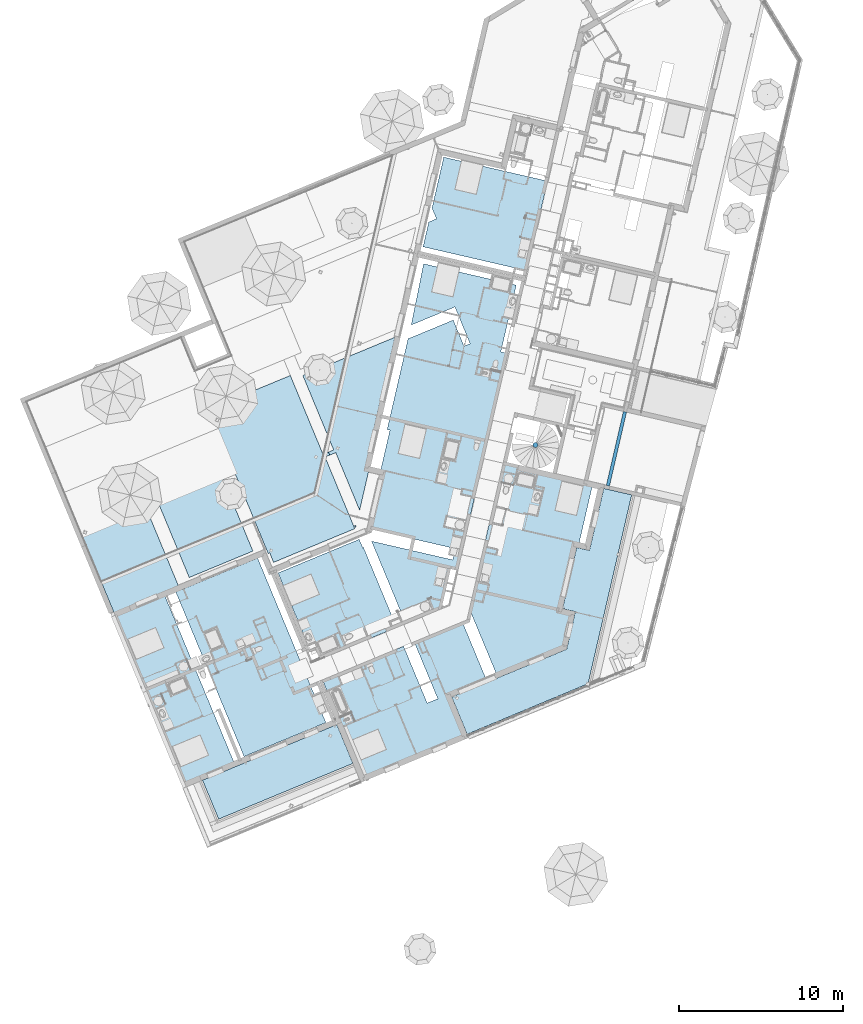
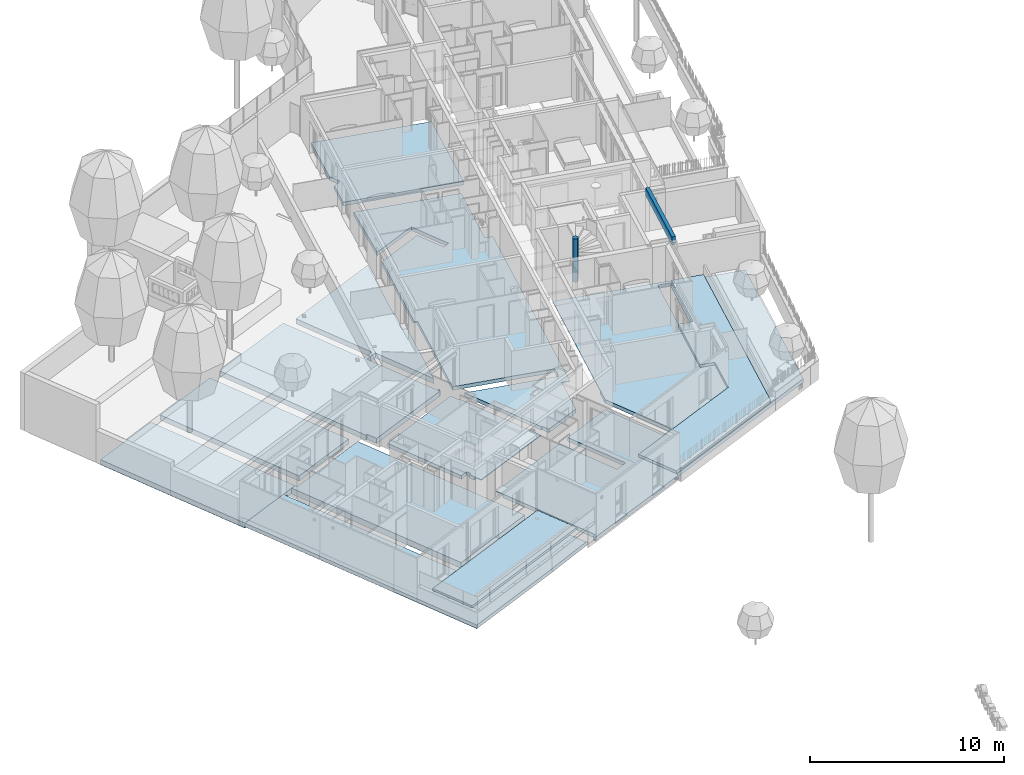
# One storey, part 3 of 119: 7 slabs, 1 beam, 1 member.
"""IFC2X3 building model written with IfcOpenShell, lengths in metres."""

from ifc_helpers import new_model, entity, si_unit, converted_unit, derived_unit, money_unit, direction, frame, origin_with_axes, place, context, subcontext, project, spatial, faceted_brep, material, material_list, type_object, element, save


model = new_model("IFC2X3")

# Units and contexts
model_context = context("Model", 3, precision=1e-05, world=origin_with_axes(), true_north=direction((0.0, 1.0)))
body_context = subcontext(model_context, "Body", "Model", "MODEL_VIEW")
ifc_project = project(units=[si_unit("LENGTHUNIT", "METRE"), si_unit("AREAUNIT", "SQUARE_METRE"), si_unit("VOLUMEUNIT", "CUBIC_METRE"), converted_unit("PLANEANGLEUNIT", "DEGREE", entity("IfcPlaneAngleMeasure", 0.0174532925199), si_unit("PLANEANGLEUNIT", "RADIAN"), dimensions=[0, 0, 0, 0, 0, 0, 0]), si_unit("SOLIDANGLEUNIT", "STERADIAN"), money_unit("EUR"), converted_unit("TIMEUNIT", "Year", entity("IfcTimeMeasure", 31556926.0), si_unit("TIMEUNIT", "SECOND"), dimensions=[0, 0, 1, 0, 0, 0, 0]), si_unit("MASSUNIT", "GRAM", prefix="KILO"), si_unit("THERMODYNAMICTEMPERATUREUNIT", "DEGREE_CELSIUS"), si_unit("LUMINOUSINTENSITYUNIT", "LUMEN"), si_unit("ENERGYUNIT", "JOULE", prefix="MEGA"), derived_unit("THERMALCONDUCTANCEUNIT", [(si_unit("POWERUNIT", "WATT"), 1), (si_unit("LENGTHUNIT", "METRE"), -1), (si_unit("THERMODYNAMICTEMPERATUREUNIT", "KELVIN"), -1)]), derived_unit("SPECIFICHEATCAPACITYUNIT", [(si_unit("ENERGYUNIT", "JOULE"), 1), (si_unit("MASSUNIT", "GRAM", prefix="KILO"), -1), (si_unit("THERMODYNAMICTEMPERATUREUNIT", "KELVIN"), -1)]), derived_unit("MASSDENSITYUNIT", [(si_unit("MASSUNIT", "GRAM", prefix="KILO"), 1), (si_unit("VOLUMEUNIT", "CUBIC_METRE"), -1)])], contexts=[model_context])

# Site, building, storey
site_placement = place(None, origin_with_axes())
site = spatial("IfcSite", under=ifc_project, at=site_placement, Name="Site", CompositionType="ELEMENT")
building_placement = place(site_placement, origin_with_axes())
building = spatial("IfcBuilding", under=site, at=building_placement, Name="Bâtiment", CompositionType="ELEMENT")
storey_placement = place(building_placement, origin_with_axes())
storey = spatial("IfcBuildingStorey", under=building, at=storey_placement, Name="Rez-de-chaussée", CompositionType="ELEMENT", Elevation=0.0)

# Beam
ifc_material_1 = material(Name="Béton")
beam_type = type_object("IfcBeamType", Name="Béton 200 x 500", PredefinedType="BEAM")
beam_placement = place(storey_placement, frame((-4.07620627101, -5.6662297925, 2.72000013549), z_axis=(0.0, 0.0, 1.0), x_axis=(-0.974387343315, 0.224876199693, 0.0)))
element("IfcBeam", 1, at=beam_placement, inside=storey, type_object=beam_type, material=ifc_material_1, Name="PoBA-001", ObjectType="BEAM", context=body_context, shape_type="Brep", body=[
    faceted_brep([(-0.1, 0.0, 0.0), (0.1, 0.0, 0.0), (0.100000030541, 4.61967338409, -1.35492542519e-07), (-0.1, 4.6196733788, -1.35492542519e-07), (0.1, 0.0, -0.500000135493), (-0.1, 0.0, -0.500000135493), (0.1, 4.61999999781, -0.500000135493), (0.1, 4.61999999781, -0.210000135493), (0.1, 4.6196733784, -0.210000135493), (-0.100000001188, 4.61967337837, -0.210000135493), (-0.100000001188, 4.61999999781, -0.210000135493), (-0.1, 4.61999999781, -0.500000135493)], [[[0, 1, 2, 3]], [[4, 1, 0, 5]], [[6, 7, 8, 2, 1, 4]], [[8, 9, 3, 2]], [[0, 3, 9, 10, 11, 5]], [[6, 4, 5, 11]], [[6, 11, 10, 7]], [[8, 7, 10, 9]]]),
])

# Member
member_type = type_object("IfcMemberType", Name="Béton D300", PredefinedType="USERDEFINED")
member_placement = place(storey_placement, frame((-9.52980076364, -7.68659305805, 0.0), z_axis=(0.0, 0.0, 1.0), x_axis=(0.0549398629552, 0.998489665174, 0.0)))
element("IfcMember", 2, at=member_placement, inside=storey, type_object=member_type, material=ifc_material_1, Name="Pot-001", ObjectType="STAIR_STRUCTURE", context=body_context, shape_type="Brep", body=[
    faceted_brep([(-0.15, 0.0, 2.72), (-0.15, 0.0, 0.0), (-0.146239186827, -0.0333781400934, 0.0), (-0.146239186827, -0.0333781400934, 2.72), (-0.146239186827, 0.0333781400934, 2.72), (-0.146239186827, 0.0333781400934, 0.0), (-0.135145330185, 0.0650825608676, 0.0), (-0.11727472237, 0.0935234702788, 0.0), (-0.0935234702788, 0.11727472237, 0.0), (-0.0650825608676, 0.135145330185, 0.0), (-0.0333781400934, 0.146239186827, 0.0), (0.0, 0.15, 0.0), (0.0333781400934, 0.146239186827, 0.0), (0.0650825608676, 0.135145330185, 0.0), (0.0935234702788, 0.11727472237, 0.0), (0.11727472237, 0.0935234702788, 0.0), (0.135145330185, 0.0650825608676, 0.0), (0.146239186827, 0.0333781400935, 0.0), (0.15, 0.0, 0.0), (0.146239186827, -0.0333781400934, 0.0), (0.135145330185, -0.0650825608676, 0.0), (0.11727472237, -0.0935234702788, 0.0), (0.0935234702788, -0.11727472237, 0.0), (0.0650825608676, -0.135145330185, 0.0), (0.0333781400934, -0.146239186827, 0.0), (0.0, -0.15, 0.0), (-0.0333781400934, -0.146239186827, 0.0), (-0.0650825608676, -0.135145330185, 0.0), (-0.0935234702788, -0.11727472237, 0.0), (-0.11727472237, -0.0935234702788, 0.0), (-0.135145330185, -0.0650825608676, 0.0), (-0.135145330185, -0.0650825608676, 2.72), (-0.11727472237, -0.0935234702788, 2.72), (-0.0935234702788, -0.11727472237, 2.72), (-0.0650825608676, -0.135145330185, 2.72), (-0.0333781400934, -0.146239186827, 2.72), (0.0, -0.15, 2.72), (0.0333781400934, -0.146239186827, 2.72), (0.0650825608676, -0.135145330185, 2.72), (0.0935234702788, -0.11727472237, 2.72), (0.11727472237, -0.0935234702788, 2.72), (0.135145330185, -0.0650825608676, 2.72), (0.146239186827, -0.0333781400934, 2.72), (0.15, 0.0, 2.72), (0.146239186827, 0.0333781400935, 2.72), (0.135145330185, 0.0650825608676, 2.72), (0.11727472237, 0.0935234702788, 2.72), (0.0935234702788, 0.11727472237, 2.72), (0.0650825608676, 0.135145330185, 2.72), (0.0333781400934, 0.146239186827, 2.72), (0.0, 0.15, 2.72), (-0.0333781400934, 0.146239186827, 2.72), (-0.0650825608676, 0.135145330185, 2.72), (-0.0935234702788, 0.11727472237, 2.72), (-0.11727472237, 0.0935234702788, 2.72), (-0.135145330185, 0.0650825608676, 2.72)], [[[0, 1, 2, 3]], [[4, 5, 1, 0]], [[2, 1, 5, 6, 7, 8, 9, 10, 11, 12, 13, 14, 15, 16, 17, 18, 19, 20, 21, 22, 23, 24, 25, 26, 27, 28, 29, 30]], [[3, 2, 30, 31]], [[4, 0, 3, 31, 32, 33, 34, 35, 36, 37, 38, 39, 40, 41, 42, 43, 44, 45, 46, 47, 48, 49, 50, 51, 52, 53, 54, 55]], [[55, 6, 5, 4]], [[54, 7, 6, 55]], [[53, 8, 7, 54]], [[52, 9, 8, 53]], [[51, 10, 9, 52]], [[50, 11, 10, 51]], [[49, 12, 11, 50]], [[48, 13, 12, 49]], [[47, 14, 13, 48]], [[46, 15, 14, 47]], [[45, 16, 15, 46]], [[44, 17, 16, 45]], [[43, 18, 17, 44]], [[42, 19, 18, 43]], [[41, 20, 19, 42]], [[40, 21, 20, 41]], [[39, 22, 21, 40]], [[38, 23, 22, 39]], [[37, 24, 23, 38]], [[36, 25, 24, 37]], [[35, 26, 25, 36]], [[34, 27, 26, 35]], [[33, 28, 27, 34]], [[32, 29, 28, 33]], [[31, 30, 29, 32]]]),
])

# Slabs
slab_type_1 = type_object("IfcSlabType", Name="Béton 320", PredefinedType="FLOOR")
slab_1_placement = place(storey_placement, frame((-38.7204314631, -9.37323483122, 0.0), z_axis=(0.0, 0.0, 1.0), x_axis=(1.0, 0.0, 0.0)))
element("IfcSlab", 3, at=slab_1_placement, inside=storey, type_object=slab_type_1, material=ifc_material_1, Name="Dalle alvéolaire préfabriquée", PredefinedType="FLOOR", context=body_context, shape_type="Brep", body=[
    faceted_brep([(3.58543523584, -8.64464652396, -0.32), (7.51116731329, -7.01641822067, -0.32), (7.51116731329, -7.01641822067, 0.0), (3.58543523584, -8.64464652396, 0.0), (0.0, 0.0, -0.32), (3.92573207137, 1.62822830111, -0.32), (3.92573207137, 1.62822830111, 0.0), (0.0, 0.0, 0.0)], [[[0, 1, 2, 3]], [[4, 5, 1, 0]], [[5, 6, 2, 1]], [[3, 2, 6, 7]], [[3, 7, 4, 0]], [[7, 6, 5, 4]]]),
    faceted_brep([(18.2725506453, -3.23193692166, 0.0), (18.2382623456, -3.38050793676, 0.0), (18.2382623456, -3.38050793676, -0.32), (18.2725506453, -3.23193692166, -0.32), (18.1664890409, -3.20745925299, -4.47035253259e-09), (18.1664890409, -3.20745925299, -0.32)], [[[0, 1, 2, 3]], [[0, 4, 1]], [[5, 2, 1, 4]], [[2, 5, 3]], [[5, 4, 0, 3]]]),
    faceted_brep([(14.2710737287, 5.91904024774, 0.0), (9.2832017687, 3.85028106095, 0.0), (12.924806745, -4.92979323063, 0.0), (13.0171769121, -4.89148197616, 0.0), (13.2532452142, -5.46065332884, 0.0), (18.1965256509, -3.4103888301, 0.0), (16.3871619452, 0.952068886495, 0.0), (16.667557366, 1.06836509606, 0.0), (16.5909348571, 1.25310543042, 0.0), (16.2627607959, 1.11699265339, 0.0), (14.2710737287, 5.91904024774, -0.32), (9.2832017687, 3.85028106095, -0.32), (12.924806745, -4.92979323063, -0.32), (13.0171769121, -4.89148197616, -0.32), (13.2532452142, -5.46065332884, -0.32), (18.1965256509, -3.4103888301, -0.32), (16.3871619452, 0.952068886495, -0.32), (16.667557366, 1.06836509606, -0.32), (16.5909348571, 1.25310543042, -0.32), (16.2627607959, 1.11699265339, -0.32)], [[[0, 1, 2, 3, 4, 5, 6, 7, 8, 9]], [[10, 11, 1, 0]], [[11, 12, 2, 1]], [[3, 2, 12, 13]], [[13, 14, 4, 3]], [[5, 4, 14, 15]], [[6, 5, 15, 16]], [[16, 17, 7, 6]], [[17, 18, 8, 7]], [[19, 9, 8, 18]], [[10, 0, 9, 19]], [[13, 12, 11, 10, 19, 18, 17, 16, 15, 14]]]),
    faceted_brep([(8.54424043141, 3.54379102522, 0.0), (4.66469340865, 1.93471833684, 0.0), (8.11474211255, -6.38350511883, 0.0), (11.9942891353, -4.77443243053, 0.0), (8.54424043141, 3.54379102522, -0.32), (4.66469340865, 1.93471833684, -0.32), (8.11474211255, -6.38350511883, -0.32), (11.9942891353, -4.77443243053, -0.32)], [[[0, 1, 2, 3]], [[4, 5, 1, 0]], [[5, 6, 2, 1]], [[3, 2, 6, 7]], [[4, 0, 3, 7]], [[7, 6, 5, 4]]]),
])
slab_2_placement = place(storey_placement, frame((-20.1532499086, -12.8849495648, 0.0), z_axis=(0.0, 0.0, 1.0), x_axis=(1.0, 0.0, 0.0)))
element("IfcSlab", 4, at=slab_2_placement, inside=storey, type_object=slab_type_1, material=ifc_material_1, Name="Pré-dalle préfabriquée pour dalle béton", PredefinedType="FLOOR", context=body_context, shape_type="Brep", body=[
    faceted_brep([(-3.53854740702, 9.43138188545, 0.0), (-1.65782958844, 4.89688616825, 0.0), (-1.97624669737, 4.76482016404, 0.0), (-1.89962418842, 4.58007982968, 0.0), (-1.53342843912, 4.73196240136, 0.0), (-0.0773445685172, 1.22127833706, 0.0), (0.986213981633, 5.82967171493, 0.0), (0.717214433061, 5.89175338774, 0.0), (2.07107325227, 11.7580162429, 0.0), (-1.65782958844, 4.89688616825, -0.32), (-3.53854740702, 9.43138188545, -0.32), (-1.97624669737, 4.76482016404, -0.32), (-1.89962418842, 4.58007982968, -0.32), (-1.53342843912, 4.73196240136, -0.32), (-0.0773445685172, 1.22127833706, -0.32), (0.986213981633, 5.82967171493, -0.32), (0.717214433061, 5.89175338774, -0.32), (2.07107325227, 11.7580162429, -0.32)], [[[0, 1, 2, 3, 4, 5, 6, 7, 8]], [[9, 1, 0, 10]], [[11, 2, 1, 9]], [[3, 2, 11, 12]], [[13, 4, 3, 12]], [[13, 14, 5, 4]], [[6, 5, 14, 15]], [[7, 6, 15, 16]], [[16, 17, 8, 7]], [[17, 10, 0, 8]], [[11, 9, 10, 17, 16, 15, 14, 13, 12]]]),
])
slab_type_2 = type_object("IfcSlabType", Name="Béton 380", PredefinedType="FLOOR")
slab_3_placement = place(storey_placement, frame((-31.8022546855, -16.6356005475, 0.0), z_axis=(0.0, 0.0, 1.0), x_axis=(1.0, 0.0, 0.0)))
element("IfcSlab", 5, at=slab_3_placement, inside=storey, type_object=slab_type_2, material=ifc_material_1, Name="Pré-dalle préfabriquée pour dalle béton", PredefinedType="FLOOR", context=body_context, shape_type="Brep", body=[
    faceted_brep([(5.36003879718, 2.06439370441, 0.0), (5.36003879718, 2.06439370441, -0.38), (0.649160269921, 0.110519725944, -0.38), (0.649160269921, 0.110519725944, 0.0), (9.51618291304, -7.95625772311, -0.38), (9.51618291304, -7.95625772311, 0.0), (0.59299053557, 0.245947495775, -0.38), (4.5356094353, -10.0219898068, -0.38), (0.323295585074, 0.1340893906, -0.38), (0.59299053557, 0.245947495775, 0.0), (0.323295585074, 0.1340893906, 0.0), (4.5356094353, -10.0219898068, 0.0)], [[[0, 1, 2, 3]], [[4, 1, 0, 5]], [[6, 2, 1, 4, 7, 8]], [[6, 9, 3, 2]], [[0, 3, 9, 10, 11, 5]], [[5, 11, 7, 4]], [[8, 7, 11, 10]], [[10, 9, 6, 8]]]),
])
slab_type_3 = type_object("IfcSlabType", Name="Béton 230", PredefinedType="FLOOR")
slab_4_placement = place(storey_placement, frame((-35.1349962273, -18.0178813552, 0.0), z_axis=(0.0, 0.0, 1.0), x_axis=(1.0, 0.0, 0.0)))
element("IfcSlab", 6, at=slab_4_placement, inside=storey, type_object=slab_type_3, material=ifc_material_1, Name="Pré-dalle préfabriquée pour dalle béton", PredefinedType="FLOOR", context=body_context, shape_type="Brep", body=[
    faceted_brep([(17.5809553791, -1.9262210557, 0.0), (12.6376749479, -3.9764855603, 0.0), (15.1090593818, -9.93510520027, 0.0), (14.913249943, -10.0163187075, 0.0), (14.9623249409, -10.1346407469, 0.0), (21.4949231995, -7.42519415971, 0.0), (21.4433433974, -7.30083292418, 0.0), (21.7789833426, -7.1612823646, 0.0), (31.3682981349, -3.14933977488, 0.0), (33.6651681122, 6.80343462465, 0.0), (29.7578765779, 7.705195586, 0.0), (29.8029485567, 7.90004288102, 0.0), (28.7926611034, 8.13374986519, 0.0), (28.7910112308, 8.13347760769, 0.0), (23.6664763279, 9.31953636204, 0.0), (21.5942661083, 0.334262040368, 0.0), (23.2406398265, -3.63521945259, 0.0), (22.5940486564, -3.90339823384, 0.0), (21.1585639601, -0.442379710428, 0.0), (18.2275465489, -1.65804227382, 0.0), (19.663031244, -5.11906079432, 0.0), (19.0164400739, -5.38723957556, 0.0), (29.7570090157, 7.70538795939, 0.0), (28.7794038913, 3.46943031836, 0.0), (28.0973327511, 3.62684365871, 0.0), (29.0749378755, 7.86280129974, 0.0), (17.5809553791, -1.9262210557, -0.05), (12.6376749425, -3.9764855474, -0.05), (12.8058473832, -4.38195690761, -0.23), (15.1090593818, -9.93510520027, -0.23), (12.8058473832, -4.38195690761, -0.05), (14.913249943, -10.0163187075, -0.23), (14.9623249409, -10.1346407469, -0.23), (21.4949231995, -7.42519415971, -0.23), (21.4135847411, -7.45892992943, -0.1), (21.154948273, -7.56620144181, -0.1), (21.154948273, -7.56620144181, -0.06), (21.2611739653, -7.52214349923, -0.0400000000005), (21.3073590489, -7.50298787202, -0.0400000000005), (21.4135847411, -7.45892992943, -0.06), (21.4433433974, -7.30083292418, -0.23), (21.7789833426, -7.1612823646, -0.23), (31.3682981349, -3.14933977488, -0.23), (33.6651681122, 6.80343462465, -0.23), (29.7578765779, 7.705195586, -0.23), (29.8029485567, 7.90004288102, -0.23), (28.7926611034, 8.13374986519, -0.23), (28.7910112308, 8.13347760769, -0.23), (24.1070307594, 9.21757131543, -0.23), (24.1070307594, 9.21757131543, -0.0500000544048), (23.6664763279, 9.31953636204, -0.0500000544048), (21.8020730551, 1.23533009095, -0.0500000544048), (21.8020730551, 1.23533009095, -0.23), (21.5942661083, 0.334262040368, -0.23), (23.2406398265, -3.63521945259, -0.23), (22.5940486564, -3.90339823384, -0.23), (21.1585639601, -0.442379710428, -0.23), (18.2275465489, -1.65804227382, -0.23), (19.663031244, -5.11906079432, -0.23), (19.0164400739, -5.38723957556, -0.23), (17.7491278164, -2.33169240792, -0.23), (17.7491278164, -2.33169240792, -0.05), (29.7570090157, 7.70538795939, -0.23), (28.7794038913, 3.46943031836, -0.23), (28.0973327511, 3.62684365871, -0.23), (29.0749378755, 7.86280129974, -0.23), (22.2414297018, 1.13393216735, -0.23), (21.3628478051, -7.33660088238, -0.1), (21.1042113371, -7.44387239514, -0.1), (21.1042113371, -7.44387239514, -0.06), (21.2104370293, -7.3998144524, -0.0400000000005), (21.2566221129, -7.38065882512, -0.0400000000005), (21.3628478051, -7.33660088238, -0.06), (22.2414297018, 1.13393216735, -0.0500000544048)], [[[0, 1, 2, 3, 4, 5, 6, 7, 8, 9, 10, 11, 12, 13, 14, 15, 16, 17, 18, 19, 20, 21], [22, 23, 24, 25]], [[0, 26, 27, 1]], [[28, 29, 2, 1, 27, 30]], [[29, 31, 3, 2]], [[32, 4, 3, 31]], [[32, 33, 5, 4], [34, 35, 36, 37, 38, 39]], [[33, 40, 6, 5]], [[40, 41, 7, 6]], [[41, 42, 8, 7]], [[42, 43, 9, 8]], [[43, 44, 10, 9]], [[44, 45, 11, 10]], [[45, 46, 12, 11]], [[46, 47, 13, 12]], [[47, 48, 49, 50, 14, 13]], [[51, 52, 53, 15, 14, 50]], [[53, 54, 16, 15]], [[54, 55, 17, 16]], [[55, 56, 18, 17]], [[18, 56, 57, 19]], [[57, 58, 20, 19]], [[58, 59, 21, 20]], [[59, 60, 61, 26, 0, 21]], [[62, 63, 23, 22]], [[63, 64, 24, 23]], [[64, 65, 25, 24]], [[65, 62, 22, 25]], [[26, 61, 30, 27]], [[32, 31, 29, 28, 60, 59, 58, 57, 56, 55, 54, 53, 52, 66, 48, 47, 46, 45, 44, 43, 42, 41, 40, 33], [62, 65, 64, 63]], [[61, 60, 28, 30]], [[34, 67, 68, 35]], [[35, 68, 69, 36]], [[36, 69, 70, 37]], [[37, 70, 71, 38]], [[38, 71, 72, 39]], [[39, 72, 67, 34]], [[66, 73, 49, 48]], [[73, 51, 50, 49]], [[51, 73, 66, 52]], [[69, 68, 67, 72, 71, 70]]]),
    faceted_brep([(8.05990724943, -9.10155983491, -0.23), (8.05786986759, -9.09664761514, -0.23), (8.05786986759, -9.09664761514, 0.0), (8.05990724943, -9.10155983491, 0.0), (3.00944595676, 1.24819141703, -0.23), (7.41127869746, -9.36482639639, -0.23), (13.0404807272, -7.03582775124, -0.23), (14.3700980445, -10.241595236, -0.23), (14.4815882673, -10.1953537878, -0.23), (11.3850906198, -11.5606675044, -0.23), (5.76198558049, -13.8928946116, -0.23), (0.0, 0.0, -0.23), (7.41127869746, -9.36482639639, 0.0), (3.00944595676, 1.24819141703, 0.0), (0.0, 0.0, 0.0), (5.76198558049, -13.8928946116, 0.0), (11.3850906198, -11.5606675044, 0.0), (14.4815882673, -10.1953537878, 0.0), (14.3700980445, -10.241595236, 0.0), (13.0404807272, -7.03582775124, 0.0)], [[[0, 1, 2, 3]], [[4, 5, 1, 0, 6, 7, 8, 9, 10, 11]], [[5, 12, 2, 1]], [[2, 12, 13, 14, 15, 16, 17, 18, 19, 3]], [[0, 3, 19, 6]], [[4, 13, 12, 5]], [[7, 6, 19, 18]], [[7, 18, 17, 8]], [[9, 8, 17, 16]], [[9, 16, 15, 10]], [[10, 15, 14, 11]], [[14, 13, 4, 11]]]),
])
slab_5_placement = place(storey_placement, frame((-25.7025617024, -15.3104669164, 0.0), z_axis=(0.0, 0.0, 1.0), x_axis=(1.0, 0.0, 0.0)))
element("IfcSlab", 7, at=slab_5_placement, inside=storey, type_object=slab_type_3, material=ifc_material_1, Name="Pré-dalle préfabriquée pour dalle béton", PredefinedType="FLOOR", context=body_context, shape_type="Brep", body=[
    faceted_brep([(5.44683467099, 1.88025208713, -5.22747067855e-10), (0.503554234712, -0.170012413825, 0.0), (2.33978918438, -4.59725792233, 0.0), (2.75488518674, -4.42509358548, 0.0), (2.85961460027, -4.67760093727, 0.0), (2.75246520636, -4.72204199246, 0.0), (3.04195860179, -5.42002366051, 0.0), (7.72589931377, -3.48416589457, 0.0), (5.68195924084, 1.4438660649, 0.0), (5.66260734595, 1.36001441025, -4.47035253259e-09), (5.44683467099, 1.88025208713, -0.23), (0.503554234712, -0.170012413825, -0.23), (2.33978918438, -4.59725792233, -0.23), (2.75488518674, -4.42509358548, -0.23), (2.85961460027, -4.67760093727, -0.23), (2.75246520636, -4.72204199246, -0.23), (2.87391185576, -5.0148553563, -0.23), (2.87391185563, -5.01485535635, -0.05), (3.04195860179, -5.42002366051, -0.05), (7.72589931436, -3.48416589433, -0.05), (7.55543076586, -3.07315851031, -0.05), (7.55543076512, -3.07315851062, -0.23), (5.68195924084, 1.4438660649, -0.23), (5.66260734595, 1.36001441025, -0.23)], [[[0, 1, 2, 3, 4, 5, 6, 7, 8, 9]], [[10, 11, 1, 0]], [[11, 12, 2, 1]], [[3, 2, 12, 13]], [[14, 4, 3, 13]], [[15, 5, 4, 14]], [[16, 17, 18, 6, 5, 15]], [[6, 18, 19, 7]], [[19, 20, 21, 22, 8, 7]], [[23, 9, 8, 22]], [[23, 10, 0, 9]], [[13, 12, 11, 10, 23, 22, 21, 16, 15, 14]], [[16, 21, 20, 17]], [[17, 20, 19, 18]]]),
    faceted_brep([(10.5944650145, 25.1491364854, 0.0), (9.87679221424, 22.0394641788, 0.0), (9.88037892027, 22.0409517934, 0.0), (10.1485577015, 21.3943606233, 0.0), (9.68338367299, 21.2014260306, 0.0), (9.3345657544, 19.6899999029, 0.0), (15.6548662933, 18.2313549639, 0.0), (16.9147655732, 23.6904915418, 0.0), (10.5944650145, 25.1491364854, -0.23), (9.87679221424, 22.0394641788, -0.23), (9.88037892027, 22.0409517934, -0.23), (10.1485577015, 21.3943606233, -0.23), (9.68338367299, 21.2014260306, -0.23), (9.3345657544, 19.6899999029, -0.23), (15.6548662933, 18.2313549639, -0.23), (16.5220467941, 21.9888432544, -0.23), (16.5220466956, 21.9888432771, -0.06), (16.9147655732, 23.6904915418, -0.06), (16.7382568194, 23.7312275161, -0.06), (16.7382568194, 23.7312275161, -0.23), (16.3466305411, 22.0292056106, -0.23), (16.3466305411, 22.0292056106, -0.06)], [[[0, 1, 2, 3, 4, 5, 6, 7]], [[8, 9, 1, 0]], [[10, 2, 1, 9]], [[11, 3, 2, 10]], [[12, 4, 3, 11]], [[5, 4, 12, 13]], [[13, 14, 6, 5]], [[14, 15, 16, 17, 7, 6]], [[17, 18, 19, 8, 0, 7]], [[11, 10, 9, 8, 19, 20, 15, 14, 13, 12]], [[21, 16, 15, 20]], [[21, 18, 17, 16]], [[20, 19, 18, 21]]]),
    faceted_brep([(8.12880739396, -2.88947606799, 0.0), (8.12880739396, -2.88947606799, -0.05), (8.15583685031, -2.82413535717, -0.05), (8.15583685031, -2.82413535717, 0.0), (8.10965176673, -2.84329098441, -0.23), (8.10965176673, -2.84329098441, -0.05), (6.19644004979, 1.7695489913, 0.0), (6.19644004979, 1.7695489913, -0.23), (8.15583685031, -2.82413535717, -0.23), (8.32661599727, -3.2358916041, -0.23), (8.32661599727, -3.2358916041, 0.0), (11.2964498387, 1.31093176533, 0.0), (11.1390364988, 0.628860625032, 0.0), (10.4516242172, -2.35763248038, 0.0), (11.0134633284, 0.0768133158, 0.0), (11.4421436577, -0.0223488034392, 0.0), (14.4923570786, 13.1942089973, 0.0), (14.0685582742, 13.2920163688, 0.0), (15.0061912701, 17.3547749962, 0.0), (9.3661137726, 18.6564331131, 0.0), (8.62331372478, 14.9717050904, 0.0), (8.61254831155, 14.9250586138, 0.0), (11.2736374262, 16.0287662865, 0.0), (11.5418162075, 15.3821751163, 0.0), (11.5393300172, 15.3811439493, 0.0), (12.1975591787, 13.7941236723, 0.0), (11.82807851, 13.6408786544, 0.0), (11.1698493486, 15.2278989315, 0.0), (8.41913977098, 14.0870204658, 0.0), (7.14496834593, 8.56604265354, 0.0), (7.31652916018, 8.52644860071, 0.0), (5.93675202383, 2.54788181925, 0.0), (11.1390364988, 0.628860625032, -0.23), (11.2964498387, 1.31093176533, -0.23), (5.93675202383, 2.54788181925, -0.23), (7.36825068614, 8.75055768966, -0.23), (7.19668987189, 8.79015174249, -0.23), (8.41913977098, 14.0870204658, -0.23), (11.1698493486, 15.2278989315, -0.23), (11.82807851, 13.6408786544, -0.23), (12.1975591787, 13.7941236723, -0.23), (11.5393300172, 15.3811439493, -0.23), (11.5418162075, 15.3821751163, -0.23), (11.2736374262, 16.0287662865, -0.23), (11.271151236, 16.0277351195, -0.23), (10.9016705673, 15.8744901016, -0.23), (8.61254831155, 14.9250586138, -0.23), (8.62331372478, 14.9717050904, -0.23), (9.3661137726, 18.6564331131, -0.23), (15.0061912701, 17.3547749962, -0.23), (14.0685582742, 13.2920163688, -0.23), (14.4923570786, 13.1942089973, -0.23), (12.6644675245, 5.27397371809, -0.23), (12.2342494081, 5.37326258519, -0.23), (10.4994227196, -2.143731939, -0.23), (10.5009104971, -2.14407529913, -0.23), (10.4516242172, -2.35763248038, -0.23), (10.5009104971, -2.14407529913, -0.05), (11.0134633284, 0.0768133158, -0.05), (11.4421436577, -0.0223488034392, -0.05), (12.6644675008, 5.27397372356, -0.05), (12.2342494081, 5.37326258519, -0.05), (10.4994227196, -2.143731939, -0.05)], [[[0, 1, 2, 3]], [[4, 5, 1, 0, 6, 7]], [[5, 2, 1]], [[3, 2, 8, 9, 10]], [[11, 12, 6, 0, 3, 10, 13, 14, 15, 16, 17, 18, 19, 20, 21, 22, 23, 24, 25, 26, 27, 28, 29, 30, 31]], [[4, 8, 2, 5]], [[7, 6, 12, 32]], [[9, 8, 4, 7, 32, 33, 34, 35, 36, 37, 38, 39, 40, 41, 42, 43, 44, 45, 46, 47, 48, 49, 50, 51, 52, 53, 54, 55, 56]], [[13, 10, 9, 56]], [[32, 12, 11, 33]], [[55, 57, 58, 14, 13, 56]], [[14, 58, 59, 15]], [[52, 51, 16, 15, 59, 60]], [[50, 17, 16, 51]], [[50, 49, 18, 17]], [[49, 48, 19, 18]], [[48, 47, 20, 19]], [[46, 21, 20, 47]], [[22, 21, 46, 45, 44, 43]], [[42, 23, 22, 43]], [[41, 24, 23, 42]], [[25, 24, 41, 40]], [[39, 26, 25, 40]], [[39, 38, 27, 26]], [[38, 37, 28, 27]], [[37, 36, 29, 28]], [[29, 36, 35, 30]], [[35, 34, 31, 30]], [[33, 11, 31, 34]], [[53, 52, 60, 61]], [[62, 54, 53, 61]], [[62, 57, 55, 54]], [[61, 60, 59, 58, 57, 62]]]),
])
ifc_material_2 = material(Name="Finition sol - Dalles terrasse")
ifc_material_3 = material(Name="Divers - Vide")
ifc_material_list = material_list([ifc_material_2, ifc_material_3])
slab_type_4 = type_object("IfcSlabType", Name="6 -Dalles sur plots multi protections RDC 170", PredefinedType="FLOOR")
slab_6_placement = place(storey_placement, frame((-29.7956615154, -28.09864817, 0.14), z_axis=(0.0, 0.0, 1.0), x_axis=(1.0, 0.0, 0.0)))
element("IfcSlab", 8, at=slab_6_placement, inside=storey, type_object=slab_type_4, material=ifc_material_list, Name="Dalle_006", PredefinedType="FLOOR", context=body_context, shape_type="Brep", body=[
    faceted_brep([(8.16822665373, 3.38783634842, 0.0), (9.15021753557, 1.02021192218, 0.0), (9.15964407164, 1.02412165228, 0.0), (8.17765319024, 3.39174607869, 0.0), (9.15021753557, 1.02021192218, -0.00636674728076), (8.16822665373, 3.38783634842, -0.00636674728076), (9.14907761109, 1.01973912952, -0.00636674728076), (9.14907761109, 1.01973912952, 0.0), (0.981990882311, -2.36762442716, 0.0), (0.981990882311, -2.36762442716, -0.05), (9.15964407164, 1.02412165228, -0.05), (8.17765319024, 3.39174607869, -0.05), (0.0, 0.0, -0.05), (0.0, 0.0, 0.0), (8.16708672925, 3.38736355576, 0.0), (8.16708672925, 3.38736355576, -0.00636674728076)], [[[0, 1, 2, 3]], [[4, 1, 0, 5]], [[6, 7, 8, 9, 10, 2, 1, 4]], [[10, 11, 3, 2]], [[5, 0, 3, 11, 12, 13, 14, 15]], [[6, 4, 5, 15]], [[14, 7, 6, 15]], [[7, 14, 13, 8]], [[12, 9, 8, 13]], [[9, 12, 11, 10]]]),
    faceted_brep([(2.71853515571, 0.98411919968, -0.17), (2.71853515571, 0.98411919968, -0.14), (2.72057253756, 0.979206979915, -0.14), (2.72057253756, 0.979206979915, -0.17), (2.07194398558, 0.715940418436, -0.17), (2.07194398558, 0.715940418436, -0.14), (2.02119215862, 0.838305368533, -0.14), (8.17765319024, 3.39174607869, -0.14), (9.15964407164, 1.02412165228, -0.14), (8.63034768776, 0.804591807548, -0.14), (7.70114601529, 3.04493906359, -0.14), (7.70114601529, 3.04493906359, -0.17), (8.63034768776, 0.804591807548, -0.17), (0.981990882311, -2.36762442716, -0.17), (0.0, 0.0, -0.17), (2.02119215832, 0.838305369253, -0.17), (0.0, 0.0, -0.05), (8.17765319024, 3.39174607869, -0.05), (9.15964407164, 1.02412165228, -0.05), (0.981990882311, -2.36762442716, -0.05)], [[[0, 1, 2, 3]], [[1, 0, 4, 5]], [[1, 5, 6, 7, 8, 9, 10, 2]], [[10, 11, 3, 2]], [[4, 0, 3, 11, 12, 13, 14, 15]], [[4, 15, 6, 5]], [[6, 15, 14, 16, 17, 7]], [[8, 7, 17, 18]], [[12, 9, 8, 18, 19, 13]], [[11, 10, 9, 12]], [[19, 16, 14, 13]], [[18, 17, 16, 19]]]),
])
slab_7_placement = place(storey_placement, frame((-7.62546564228, -20.1220576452, 0.18), z_axis=(0.0, 0.0, 1.0), x_axis=(1.0, 0.0, 0.0)))
element("IfcSlab", 9, at=slab_7_placement, inside=storey, type_object=slab_type_4, material=ifc_material_list, Name="Dalle_006", PredefinedType="FLOOR", context=body_context, shape_type="Brep", body=[
    faceted_brep([(1.30268335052, -2.1026288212, 0.0), (1.29788886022, -2.09106908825, 0.0), (1.30937630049, -2.08630458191, 0.0), (3.96002471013, 9.39894049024, 0.0), (2.25971794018, 9.7913452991, 0.0), (1.38787272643, 6.01364560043, 0.0), (0.608362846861, 6.19354651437, 0.0), (-0.251790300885, 2.46650752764, 0.0), (0.527719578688, 2.28660639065, 0.0), (0.0, 0.0, 0.0), (-7.00096736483, -2.90370638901, 0.0), (-6.05763137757, -5.1781319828, 0.0), (1.30268335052, -2.1026288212, -0.05), (1.29788886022, -2.09106908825, -0.05), (1.30937630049, -2.08630458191, -0.05), (3.96002471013, 9.39894049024, -0.05), (2.26966163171, 9.78905044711, -0.046366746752), (2.27086410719, 9.78877293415, -0.046366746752), (2.27086410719, 9.78877293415, -0.0170688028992), (2.25971794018, 9.7913452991, -0.0136751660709), (2.25971794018, 9.7913452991, -0.05), (2.25971794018, 9.7913452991, -0.0150858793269), (2.26966163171, 9.78905044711, -0.0181473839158), (1.38787273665, 6.01364560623, -0.0136751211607), (0.608362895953, 6.19354654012, -0.0136751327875), (-0.25179024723, 2.46650743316, -0.0136751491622), (0.527719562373, 2.28660641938, -0.0136751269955), (-4.04187510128e-08, -5.11485218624e-08, -0.0136751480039), (-7.00096736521, -2.90370639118, -0.0136751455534), (-6.05763137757, -5.1781319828, -0.0136751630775), (-6.04707651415, -5.17372163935, -0.0170688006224), (-6.04707651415, -5.17372163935, -0.0463667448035), (-6.04821519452, -5.17419743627, -0.0463667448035), (-6.04821519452, -5.17419743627, -0.0181473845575), (-6.05763137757, -5.1781319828, -0.0150858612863), (-6.05763137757, -5.1781319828, -0.05), (-7.00096736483, -2.90370638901, -0.05), (0.0, 0.0, -0.05), (0.527719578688, 2.28660639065, -0.05), (-0.251790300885, 2.46650752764, -0.05), (0.608362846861, 6.19354651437, -0.05), (1.38787272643, 6.01364560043, -0.05), (0.539958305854, 2.29425535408, -0.0463667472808), (0.00876232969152, -0.00741390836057, -0.0463667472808), (-6.98649117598, -2.90875040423, -0.0463667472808), (-6.98763110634, -2.90922318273, -0.0463667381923), (-6.98601838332, -2.90989032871, -0.0463667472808), (0.00982196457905, -0.00831043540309, -0.0463667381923), (0.0101629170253, -0.0068330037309, -0.0463667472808), (0.541160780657, 2.2939778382, -0.0463667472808), (0.541438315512, 2.29518030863, -0.0463667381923), (-0.23807157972, 2.47508127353, -0.0463667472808), (0.616936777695, 6.17982780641, -0.0463667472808), (1.39524417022, 6.00020436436, -0.0463667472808), (1.39644664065, 5.9999268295, -0.0463667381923), (1.3955216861, 6.00140683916, -0.0463667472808), (0.616011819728, 6.18130779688, -0.0463667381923), (0.615734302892, 6.1801053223, -0.0463667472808), (-0.239551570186, 2.47415631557, -0.0463667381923), (-0.238349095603, 2.47387879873, -0.0463667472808), (1.39644664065, 5.9999268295, -0.0170688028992), (1.38787274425, 6.01364561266, -0.0150858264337), (1.3955216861, 6.00140683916, -0.0181473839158), (0.616936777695, 6.17982780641, -0.0170687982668), (1.39174096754, 6.00101285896, -0.0170688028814), (-0.23807157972, 2.47508127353, -0.0170687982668), (0.541438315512, 2.29518030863, -0.0170688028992), (0.540352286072, 2.29047463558, -0.0170688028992), (0.0111562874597, -0.00252873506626, -0.0170688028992), (0.00982196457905, -0.00831043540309, -0.0170688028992), (-6.98601838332, -2.90989032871, -0.0170687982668), (-6.98763110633, -2.90922318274, -0.019999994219), (-6.98763110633, -2.90922318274, -0.018147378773), (-7.00096736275, -2.90370638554, -0.0150858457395), (-6.34252783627e-08, -7.3721974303e-08, -0.0150858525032), (0.527719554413, 2.28660642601, -0.0150858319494), (-0.24715704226, 2.46543799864, -0.0150858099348), (-0.251790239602, 2.46650743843, -0.0150858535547), (0.607293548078, 6.18891319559, -0.0150858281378), (0.608362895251, 6.19354654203, -0.0150858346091), (0.539958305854, 2.29425535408, -0.0181473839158), (0.00876232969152, -0.00741390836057, -0.0181473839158), (-6.98649117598, -2.90875040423, -0.0181473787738), (-6.98649117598, -2.90875040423, -0.019999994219), (0.616011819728, 6.18130779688, -0.018147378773), (0.615734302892, 6.1801053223, -0.0181473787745), (-0.239551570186, 2.47415631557, -0.018147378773), (-0.238349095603, 2.47387879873, -0.0181473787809), (-0.239157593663, 2.47037558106, -0.0170687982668), (0.612231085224, 6.18091382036, -0.0170687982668)], [[[0, 1, 2, 3, 4, 5, 6, 7, 8, 9, 10, 11]], [[1, 0, 12, 13]], [[14, 2, 1, 13]], [[2, 14, 15, 3]], [[16, 17, 18, 19, 4, 3, 15, 20, 21, 22]], [[19, 23, 5, 4]], [[24, 6, 5, 23]], [[24, 25, 7, 6]], [[25, 26, 8, 7]], [[27, 9, 8, 26]], [[27, 28, 10, 9]], [[28, 29, 11, 10]], [[12, 0, 11, 29, 30, 31, 32, 33, 34, 35]], [[13, 12, 35, 36, 37, 38, 39, 40, 41, 20, 15, 14]], [[42, 43, 44, 45, 32, 31, 46, 47, 48, 49, 50, 51, 52, 53, 54, 17, 16, 55, 56, 57, 58, 59]], [[18, 17, 54, 60]], [[19, 18, 60, 23]], [[61, 21, 20, 41]], [[61, 62, 22, 21]], [[62, 55, 16, 22]], [[63, 24, 23, 60, 64]], [[65, 25, 24, 63]], [[26, 25, 65, 66]], [[27, 26, 66, 67, 68, 69]], [[28, 27, 69, 70]], [[28, 70, 30, 29]], [[70, 46, 31, 30]], [[45, 71, 72, 33, 32]], [[72, 73, 34, 33]], [[73, 36, 35, 34]], [[73, 74, 37, 36]], [[74, 75, 38, 37]], [[75, 76, 77, 39, 38]], [[77, 78, 79, 40, 39]], [[79, 61, 41, 40]], [[42, 80, 81, 43]], [[43, 81, 82, 83, 71, 45, 44]], [[46, 70, 69, 47]], [[49, 48, 47, 69, 68, 67, 66, 50]], [[65, 51, 50, 66]], [[51, 65, 63, 52]], [[52, 63, 64, 60, 54, 53]], [[55, 62, 84, 56]], [[85, 86, 58, 57, 56, 84]], [[80, 42, 59, 58, 86, 87]], [[62, 61, 79, 84]], [[83, 82, 72, 71]], [[81, 74, 73, 72, 82]], [[80, 75, 74, 81]], [[75, 80, 87, 88, 76]], [[88, 87, 86, 77, 76]], [[85, 89, 78, 77, 86]], [[89, 85, 84, 79, 78]]]),
    faceted_brep([(1.30268335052, -2.1026288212, -0.05), (1.29788886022, -2.09106908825, -0.05), (1.30937630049, -2.08630458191, -0.05), (3.96002471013, 9.39894049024, -0.05), (2.25971794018, 9.7913452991, -0.05), (1.38787272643, 6.01364560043, -0.05), (0.608362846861, 6.19354651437, -0.05), (-0.251790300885, 2.46650752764, -0.05), (0.527719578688, 2.28660639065, -0.05), (0.0, 0.0, -0.05), (-7.00096736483, -2.90370638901, -0.05), (-6.05763137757, -5.1781319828, -0.05), (1.30268335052, -2.1026288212, -0.16), (1.29788886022, -2.09106908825, -0.16), (1.30937630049, -2.08630458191, -0.16), (1.3059211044, -2.10127592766, -0.16), (1.3059211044, -2.10127592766, -0.17), (3.96002471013, 9.39894049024, -0.17), (2.25971794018, 9.7913452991, -0.17), (1.38787272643, 6.01364560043, -0.17), (0.608362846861, 6.19354651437, -0.17), (-0.251790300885, 2.46650752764, -0.17), (0.527719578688, 2.28660639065, -0.17), (0.0, 0.0, -0.17), (-7.00096736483, -2.90370638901, -0.17), (-6.05763137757, -5.1781319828, -0.17)], [[[0, 1, 2, 3, 4, 5, 6, 7, 8, 9, 10, 11]], [[1, 0, 12, 13]], [[14, 2, 1, 13]], [[14, 15, 16, 17, 3, 2]], [[3, 17, 18, 4]], [[4, 18, 19, 5]], [[5, 19, 20, 6]], [[6, 20, 21, 7]], [[7, 21, 22, 8]], [[8, 22, 23, 9]], [[9, 23, 24, 10]], [[10, 24, 25, 11]], [[12, 0, 11, 25, 16, 15]], [[15, 14, 13, 12]], [[24, 23, 22, 21, 20, 19, 18, 17, 16, 25]]]),
])

save(model, "model.ifc")
